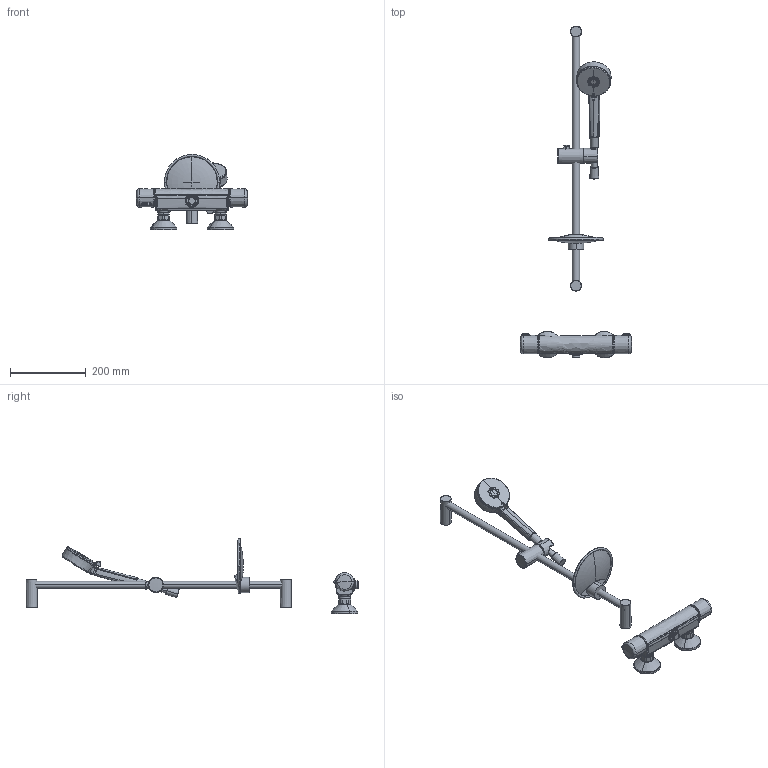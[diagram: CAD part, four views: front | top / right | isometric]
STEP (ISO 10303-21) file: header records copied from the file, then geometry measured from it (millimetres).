
FILE_DESCRIPTION (( 'STEP AP203' ), '1' );
FILE_NAME ('1669NU(2025).STEP', '2024-12-03T11:53:48', ( '' ), ( '' ), 'SwSTEP 2.0', 'SolidWorks 2024', '' );
FILE_SCHEMA (( 'CONFIG_CONTROL_DESIGN' ));
Products named in the file (1): 1669NU(2025)
Bounding box: 293.7 x 876 x 198.6 mm (x, y, z)
Volume: 1572621.2 mm3; surface area: 307438.9 mm2
Topology: 20 solids, 20 shells, 878 faces, 2037 edges, 1195 vertices
Faces by surface type: bspline 463, cylinder 164, plane 103, cone 69, torus 42, sphere 37
Entity records: 59521 total; most frequent: CARTESIAN_POINT 43307, ORIENTED_EDGE 4014, DIRECTION 2455, EDGE_CURVE 2007, VERTEX_POINT 1193, AXIS2_PLACEMENT_3D 1088, B_SPLINE_CURVE_WITH_KNOTS 908, EDGE_LOOP 904
